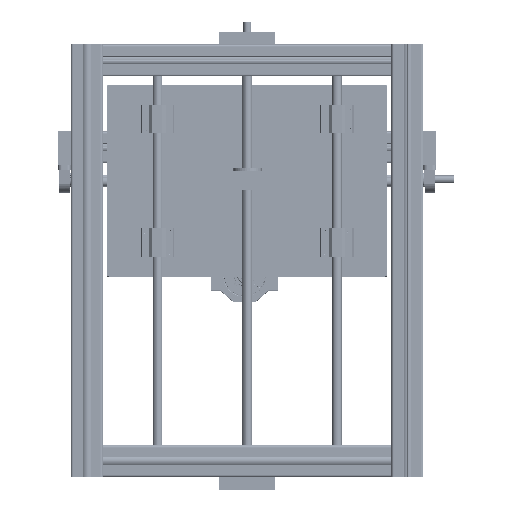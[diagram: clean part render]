
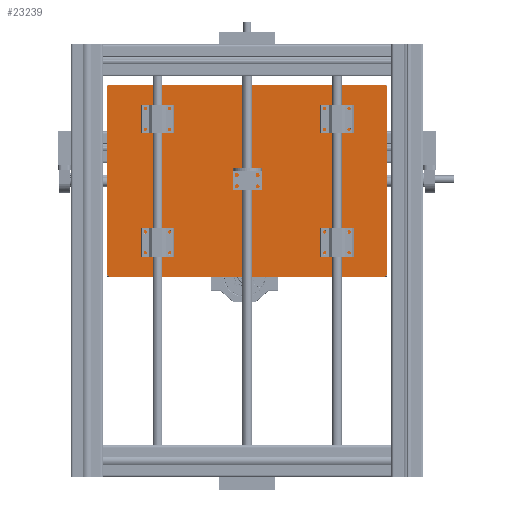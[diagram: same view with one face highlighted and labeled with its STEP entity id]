
A CAD part, front view. The second image highlights one B-rep face of the part: STEP entity #23239.
In plain terms, the highlighted planar face has unit normal (0, -1, 0).
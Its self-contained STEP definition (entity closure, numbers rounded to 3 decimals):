
#578 = CIRCLE ( 'NONE', #23358, 5. ) ;
#2044 = LINE ( 'NONE', #72466, #100139 ) ;
#2168 = VERTEX_POINT ( 'NONE', #111460 ) ;
#2979 = EDGE_CURVE ( 'NONE', #50632, #2168, #78457, .T. ) ;
#6578 = ORIENTED_EDGE ( 'NONE', *, *, #163131, .T. ) ;
#6740 = DIRECTION ( 'NONE',  ( 0., -1., 0. ) ) ;
#9753 = VERTEX_POINT ( 'NONE', #82206 ) ;
#9977 = VECTOR ( 'NONE', #135279, 1000. ) ;
#10081 = EDGE_LOOP ( 'NONE', ( #35790, #90559, #164478, #6578, #53774, #56573, #163843, #84268 ) ) ;
#20591 = FACE_OUTER_BOUND ( 'NONE', #10081, .T. ) ;
#21695 = AXIS2_PLACEMENT_3D ( 'NONE', #105425, #28791, #80698 ) ;
#22988 = CARTESIAN_POINT ( 'NONE',  ( 115., 0., -170. ) ) ;
#23239 = ADVANCED_FACE ( 'NONE', ( #20591 ), #137721, .T. ) ;
#23358 = AXIS2_PLACEMENT_3D ( 'NONE', #22988, #140395, #125249 ) ;
#25506 = CARTESIAN_POINT ( 'NONE',  ( 120., 0., -170. ) ) ;
#28270 = CIRCLE ( 'NONE', #57222, 5. ) ;
#28791 = DIRECTION ( 'NONE',  ( 0., -1., 0. ) ) ;
#35785 = CIRCLE ( 'NONE', #21695, 5. ) ;
#35790 = ORIENTED_EDGE ( 'NONE', *, *, #54386, .F. ) ;
#35922 = DIRECTION ( 'NONE',  ( 0., 0., -1. ) ) ;
#37943 = VECTOR ( 'NONE', #144058, 1000. ) ;
#50632 = VERTEX_POINT ( 'NONE', #86857 ) ;
#51323 = DIRECTION ( 'NONE',  ( 0., -1., 0. ) ) ;
#53774 = ORIENTED_EDGE ( 'NONE', *, *, #2979, .F. ) ;
#54285 = CARTESIAN_POINT ( 'NONE',  ( -120., 0., -170. ) ) ;
#54386 = EDGE_CURVE ( 'NONE', #9753, #156848, #96030, .T. ) ;
#56573 = ORIENTED_EDGE ( 'NONE', *, *, #68122, .T. ) ;
#57222 = AXIS2_PLACEMENT_3D ( 'NONE', #128066, #51323, #64178 ) ;
#60173 = CARTESIAN_POINT ( 'NONE',  ( -120., 0., -175. ) ) ;
#60416 = CARTESIAN_POINT ( 'NONE',  ( 120., 0., -175. ) ) ;
#64178 = DIRECTION ( 'NONE',  ( 0., 0., -1. ) ) ;
#68122 = EDGE_CURVE ( 'NONE', #50632, #68789, #578, .T. ) ;
#68789 = VERTEX_POINT ( 'NONE', #25506 ) ;
#69832 = EDGE_CURVE ( 'NONE', #77193, #68789, #2044, .T. ) ;
#71463 = VERTEX_POINT ( 'NONE', #85350 ) ;
#72466 = CARTESIAN_POINT ( 'NONE',  ( 120., 0., -175. ) ) ;
#77193 = VERTEX_POINT ( 'NONE', #123885 ) ;
#78457 = LINE ( 'NONE', #60416, #120602 ) ;
#80698 = DIRECTION ( 'NONE',  ( 0., 0., -1. ) ) ;
#82206 = CARTESIAN_POINT ( 'NONE',  ( -115., 0., 175. ) ) ;
#84268 = ORIENTED_EDGE ( 'NONE', *, *, #86598, .T. ) ;
#84460 = CARTESIAN_POINT ( 'NONE',  ( -115., 0., 170. ) ) ;
#85350 = CARTESIAN_POINT ( 'NONE',  ( -120., 0., 170. ) ) ;
#86598 = EDGE_CURVE ( 'NONE', #77193, #156848, #28270, .T. ) ;
#86857 = CARTESIAN_POINT ( 'NONE',  ( 115., 0., -175. ) ) ;
#89393 = EDGE_CURVE ( 'NONE', #9753, #71463, #153673, .T. ) ;
#90559 = ORIENTED_EDGE ( 'NONE', *, *, #89393, .T. ) ;
#96030 = LINE ( 'NONE', #143511, #37943 ) ;
#100139 = VECTOR ( 'NONE', #134146, 1000. ) ;
#105425 = CARTESIAN_POINT ( 'NONE',  ( -115., 0., -170. ) ) ;
#109715 = DIRECTION ( 'NONE',  ( 0., 0., -1. ) ) ;
#111460 = CARTESIAN_POINT ( 'NONE',  ( -115., 0., -175. ) ) ;
#120089 = LINE ( 'NONE', #60173, #9977 ) ;
#120602 = VECTOR ( 'NONE', #161235, 1000. ) ;
#123885 = CARTESIAN_POINT ( 'NONE',  ( 120., 0., 170. ) ) ;
#124334 = CARTESIAN_POINT ( 'NONE',  ( 0., 0., 0. ) ) ;
#124351 = EDGE_CURVE ( 'NONE', #137401, #71463, #120089, .T. ) ;
#125249 = DIRECTION ( 'NONE',  ( 0., 0., -1. ) ) ;
#125979 = DIRECTION ( 'NONE',  ( 0., -1., 0. ) ) ;
#128066 = CARTESIAN_POINT ( 'NONE',  ( 115., 0., 170. ) ) ;
#132286 = AXIS2_PLACEMENT_3D ( 'NONE', #124334, #125979, #35922 ) ;
#134146 = DIRECTION ( 'NONE',  ( 0., 0., -1. ) ) ;
#135279 = DIRECTION ( 'NONE',  ( 0., 0., 1. ) ) ;
#137401 = VERTEX_POINT ( 'NONE', #54285 ) ;
#137721 = PLANE ( 'NONE',  #132286 ) ;
#140395 = DIRECTION ( 'NONE',  ( 0., -1., 0. ) ) ;
#143511 = CARTESIAN_POINT ( 'NONE',  ( 120., 0., 175. ) ) ;
#144058 = DIRECTION ( 'NONE',  ( 1., 0., 0. ) ) ;
#148732 = AXIS2_PLACEMENT_3D ( 'NONE', #84460, #6740, #109715 ) ;
#153673 = CIRCLE ( 'NONE', #148732, 5. ) ;
#156848 = VERTEX_POINT ( 'NONE', #163136 ) ;
#161235 = DIRECTION ( 'NONE',  ( -1., 0., 0. ) ) ;
#163131 = EDGE_CURVE ( 'NONE', #137401, #2168, #35785, .T. ) ;
#163136 = CARTESIAN_POINT ( 'NONE',  ( 115., 0., 175. ) ) ;
#163843 = ORIENTED_EDGE ( 'NONE', *, *, #69832, .F. ) ;
#164478 = ORIENTED_EDGE ( 'NONE', *, *, #124351, .F. ) ;
